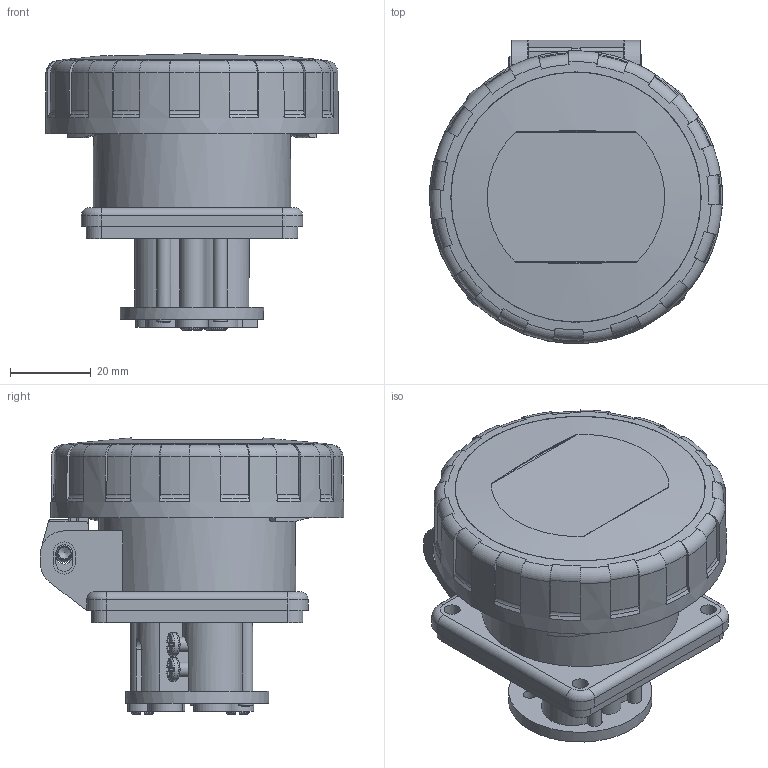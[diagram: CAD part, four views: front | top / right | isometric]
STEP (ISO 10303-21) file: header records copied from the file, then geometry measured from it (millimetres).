
FILE_DESCRIPTION(/* description */ (''),/* implementation_level */ '2;1');
FILE_NAME(/* name */ '4006087.stp',/* time_stamp */ '2019-03-01T21:34:45+01:00',/* author */ (''),/* organization */ (''),/* preprocessor_version */ 'ST-DEVELOPER v16.7',/* originating_system */ 'SIEMENS PLM Software NX 12.0',/* authorisation */ '');
FILE_SCHEMA (('AUTOMOTIVE_DESIGN { 1 0 10303 214 3 1 1 1 }'));
Length unit declared in the file: millimetre
Products named in the file (1): bsom23CC53FBqnz5
Bounding box: 72.71 x 75.38 x 68.57 mm (x, y, z)
Volume: 87246.1 mm3; surface area: 68109.6 mm2
Topology: 14 solids, 14 shells, 1281 faces, 3280 edges, 1998 vertices
Faces by surface type: plane 444, cylinder 384, bspline 178, torus 149, cone 79, sphere 47
Full cylindrical faces by diameter (mm): 2.2 x2, 3 x2, 3.1 x2, 3.2 x4, 3.5 x11, 3.546 x2, 3.8 x3, 4 x9, 4.3 x2, 4.7 x2, 5.7 x2, 5.8 x4, 6 x2, 7 x2, 7.2 x1, 7.5 x2, 8 x2, 9.5 x2, 10 x2, 35.6 x1, 37 x1, 39.4 x1, 43.4 x1, 49 x1, 62.1 x1, 62.2 x1, 67 x1
Entity records: 49211 total; most frequent: CARTESIAN_POINT 19700, DIRECTION 6180, ORIENTED_EDGE 6074, EDGE_CURVE 3037, AXIS2_PLACEMENT_3D 2465, VERTEX_POINT 1930, EDGE_LOOP 1483, ADVANCED_FACE 1281
